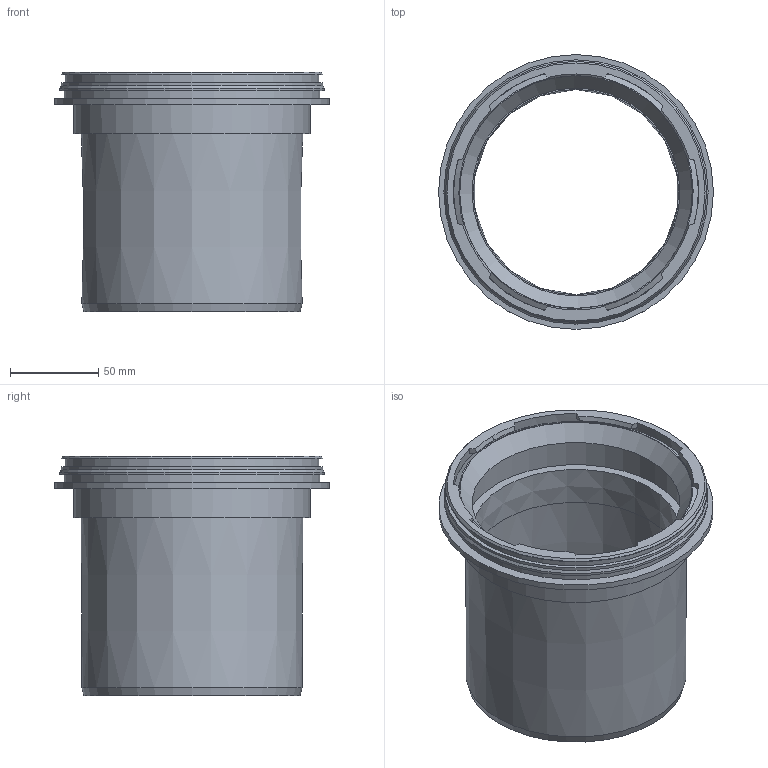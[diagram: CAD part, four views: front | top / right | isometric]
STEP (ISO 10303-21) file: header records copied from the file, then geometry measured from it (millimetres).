
FILE_DESCRIPTION(/* description */ (''),/* implementation_level */ '2;1');
FILE_NAME(/* name */ 'G:\WM_GmbH\Planerdaten\Work\EXPORT\Fertig zum Export\Bodenabl. u. Div.\stp\388100.stp',/* time_stamp */ '2017-06-27T10:28:55+02:00',/* author */ ('seihe2'),/* organization */ (''),/* preprocessor_version */ 'ST-DEVELOPER v15.2',/* originating_system */ 'Autodesk Inventor 2014',/* authorisation */ '');
FILE_SCHEMA (('AUTOMOTIVE_DESIGN { 1 0 10303 214 3 1 1 }'));
Length unit declared in the file: millimetre
Products named in the file (1): 388100
Bounding box: 156 x 156 x 136 mm (x, y, z)
Volume: 257944.4 mm3; surface area: 143944.7 mm2
Topology: 2 solids, 2 shells, 71 faces, 171 edges, 113 vertices
Faces by surface type: cone 33, plane 25, cylinder 12, bspline 1
Full cylindrical faces by diameter (mm): 131 x1, 132 x1, 137 x3, 139.2 x1, 143.8 x1, 145.086 x1, 148.23 x2, 150 x1, 156 x1
Entity records: 1917 total; most frequent: CARTESIAN_POINT 379, DIRECTION 308, ORIENTED_EDGE 248, AXIS2_PLACEMENT_3D 140, EDGE_CURVE 124, EDGE_LOOP 114, VERTEX_POINT 96, STYLED_ITEM 73
